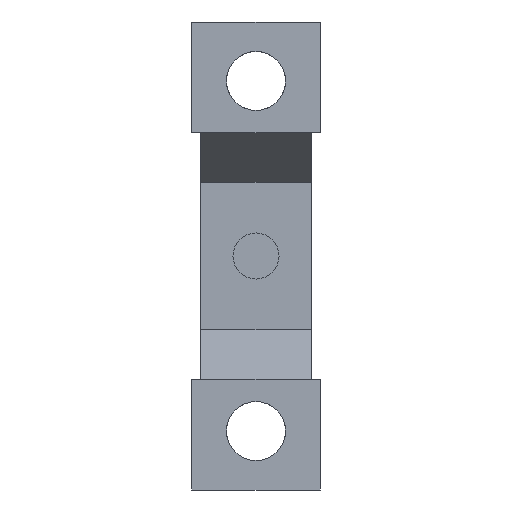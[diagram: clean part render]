
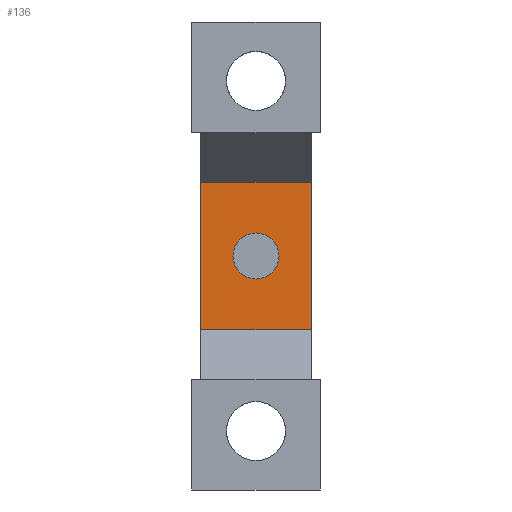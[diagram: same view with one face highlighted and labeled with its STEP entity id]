
A CAD part, front view. The second image highlights one B-rep face of the part: STEP entity #136.
In plain terms, the highlighted planar face has unit normal (0, -1, 0).
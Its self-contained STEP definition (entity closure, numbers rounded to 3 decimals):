
#22 = VERTEX_POINT ( 'NONE', #854 ) ;
#23 = ORIENTED_EDGE ( 'NONE', *, *, #24, .F. ) ;
#24 = EDGE_CURVE ( 'NONE', #94, #150, #847, .T. ) ;
#26 = EDGE_CURVE ( 'NONE', #22, #131, #716, .T. ) ;
#27 = ORIENTED_EDGE ( 'NONE', *, *, #318, .F. ) ;
#28 = ORIENTED_EDGE ( 'NONE', *, *, #93, .F. ) ;
#29 = ORIENTED_EDGE ( 'NONE', *, *, #26, .T. ) ;
#32 = EDGE_CURVE ( 'NONE', #131, #150, #829, .T. ) ;
#33 = ORIENTED_EDGE ( 'NONE', *, *, #238, .F. ) ;
#92 = ORIENTED_EDGE ( 'NONE', *, *, #32, .T. ) ;
#93 = EDGE_CURVE ( 'NONE', #237, #202, #1111, .T. ) ;
#94 = VERTEX_POINT ( 'NONE', #995 ) ;
#124 = EDGE_LOOP ( 'NONE', ( #92, #23, #27, #29 ) ) ;
#131 = VERTEX_POINT ( 'NONE', #969 ) ;
#136 = ADVANCED_FACE ( 'NONE', ( #965, #975 ), #1087, .F. ) ;
#150 = VERTEX_POINT ( 'NONE', #1076 ) ;
#202 = VERTEX_POINT ( 'NONE', #1278 ) ;
#237 = VERTEX_POINT ( 'NONE', #1358 ) ;
#238 = EDGE_CURVE ( 'NONE', #202, #237, #1523, .T. ) ;
#294 = EDGE_LOOP ( 'NONE', ( #28, #33 ) ) ;
#318 = EDGE_CURVE ( 'NONE', #22, #94, #1564, .T. ) ;
#716 = LINE ( 'NONE', #841, #840 ) ;
#826 = DIRECTION ( 'NONE',  ( 0., 0., -1. ) ) ;
#827 = VECTOR ( 'NONE', #826, 1000. ) ;
#828 = CARTESIAN_POINT ( 'NONE',  ( -3., -15.2, -1. ) ) ;
#829 = LINE ( 'NONE', #828, #827 ) ;
#839 = DIRECTION ( 'NONE',  ( -1., 0., 0. ) ) ;
#840 = VECTOR ( 'NONE', #839, 1000. ) ;
#841 = CARTESIAN_POINT ( 'NONE',  ( 3., -15.2, 7. ) ) ;
#844 = DIRECTION ( 'NONE',  ( -1., 0., 0. ) ) ;
#845 = VECTOR ( 'NONE', #844, 1000. ) ;
#846 = CARTESIAN_POINT ( 'NONE',  ( 3., -15.2, -1. ) ) ;
#847 = LINE ( 'NONE', #846, #845 ) ;
#854 = CARTESIAN_POINT ( 'NONE',  ( 3., -15.2, 7. ) ) ;
#962 = DIRECTION ( 'NONE',  ( 0., 0., 1. ) ) ;
#963 = DIRECTION ( 'NONE',  ( 0., -1., 0. ) ) ;
#965 = FACE_OUTER_BOUND ( 'NONE', #124, .T. ) ;
#969 = CARTESIAN_POINT ( 'NONE',  ( -3., -15.2, 7. ) ) ;
#975 = FACE_BOUND ( 'NONE', #294, .T. ) ;
#995 = CARTESIAN_POINT ( 'NONE',  ( 3., -15.2, -1. ) ) ;
#1076 = CARTESIAN_POINT ( 'NONE',  ( -3., -15.2, -1. ) ) ;
#1081 = DIRECTION ( 'NONE',  ( 0., 0., 1. ) ) ;
#1082 = DIRECTION ( 'NONE',  ( 0., 1., 0. ) ) ;
#1083 = CARTESIAN_POINT ( 'NONE',  ( 3., -15.2, -1. ) ) ;
#1087 = PLANE ( 'NONE',  #1088 ) ;
#1088 = AXIS2_PLACEMENT_3D ( 'NONE', #1083, #1082, #1081 ) ;
#1106 = AXIS2_PLACEMENT_3D ( 'NONE', #1118, #963, #962 ) ;
#1111 = CIRCLE ( 'NONE', #1106, 1.25 ) ;
#1118 = CARTESIAN_POINT ( 'NONE',  ( 0., -15.2, 3. ) ) ;
#1278 = CARTESIAN_POINT ( 'NONE',  ( 0., -15.2, 1.75 ) ) ;
#1347 = DIRECTION ( 'NONE',  ( 0., 0., 1. ) ) ;
#1348 = DIRECTION ( 'NONE',  ( 0., -1., 0. ) ) ;
#1349 = CARTESIAN_POINT ( 'NONE',  ( 0., -15.2, 3. ) ) ;
#1350 = AXIS2_PLACEMENT_3D ( 'NONE', #1349, #1348, #1347 ) ;
#1358 = CARTESIAN_POINT ( 'NONE',  ( 0., -15.2, 4.25 ) ) ;
#1523 = CIRCLE ( 'NONE', #1350, 1.25 ) ;
#1561 = DIRECTION ( 'NONE',  ( 0., 0., -1. ) ) ;
#1562 = VECTOR ( 'NONE', #1561, 1000. ) ;
#1563 = CARTESIAN_POINT ( 'NONE',  ( 3., -15.2, -1. ) ) ;
#1564 = LINE ( 'NONE', #1563, #1562 ) ;
